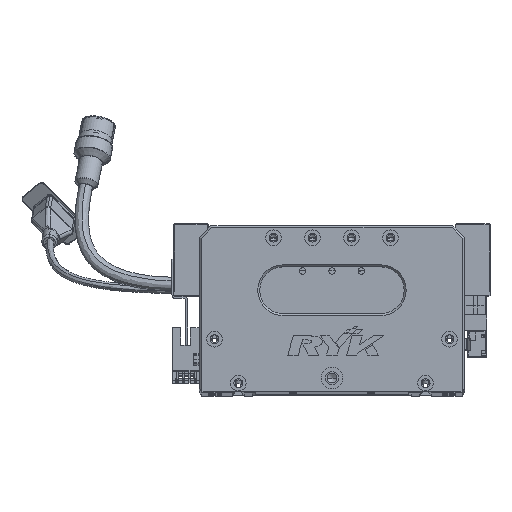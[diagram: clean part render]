
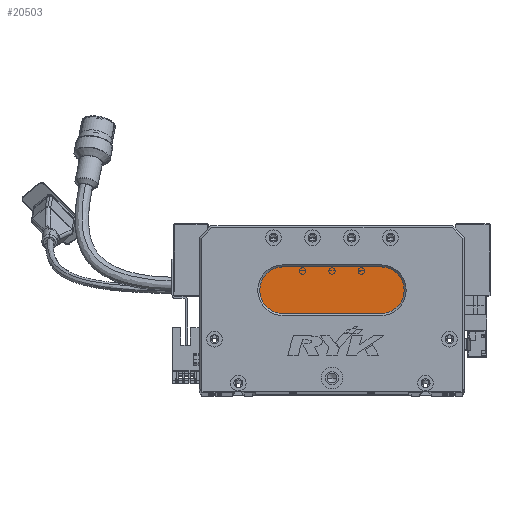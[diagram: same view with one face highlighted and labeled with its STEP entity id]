
A CAD part, top view. The second image highlights one B-rep face of the part: STEP entity #20503.
In plain terms, the highlighted planar face has unit normal (0, 0, 1) as drawn and (0, 0, -1) by its records, which use the part's own axes.
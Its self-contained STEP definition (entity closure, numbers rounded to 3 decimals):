
#447 = LINE ( 'NONE', #61571, #64118 ) ;
#2604 = VERTEX_POINT ( 'NONE', #35423 ) ;
#3941 = EDGE_CURVE ( 'NONE', #80259, #57751, #54508, .T. ) ;
#5310 = DIRECTION ( 'NONE',  ( -1., 0., 0. ) ) ;
#6133 = CARTESIAN_POINT ( 'NONE',  ( 43., 52., 13. ) ) ;
#10605 = CARTESIAN_POINT ( 'NONE',  ( 43., 52., 13. ) ) ;
#12146 = DIRECTION ( 'NONE',  ( 0., 0., -1. ) ) ;
#17013 = EDGE_CURVE ( 'NONE', #43106, #2604, #52364, .T. ) ;
#20289 = CARTESIAN_POINT ( 'NONE',  ( 93., 64., 13. ) ) ;
#20503 = ADVANCED_FACE ( 'NONE', ( #63161 ), #25349, .T. ) ;
#21717 = ORIENTED_EDGE ( 'NONE', *, *, #3941, .T. ) ;
#22318 = CIRCLE ( 'NONE', #67075, 12. ) ;
#23896 = ORIENTED_EDGE ( 'NONE', *, *, #17013, .T. ) ;
#25349 = PLANE ( 'NONE',  #56787 ) ;
#25865 = ORIENTED_EDGE ( 'NONE', *, *, #50575, .T. ) ;
#27200 = AXIS2_PLACEMENT_3D ( 'NONE', #6133, #58093, #5310 ) ;
#29032 = CARTESIAN_POINT ( 'NONE',  ( 31., 52., 13. ) ) ;
#30608 = VECTOR ( 'NONE', #62903, 1000. ) ;
#32275 = DIRECTION ( 'NONE',  ( -1., 0., 0. ) ) ;
#35423 = CARTESIAN_POINT ( 'NONE',  ( 93., 40., 13. ) ) ;
#37983 = CARTESIAN_POINT ( 'NONE',  ( 43., 64., 13. ) ) ;
#42195 = ORIENTED_EDGE ( 'NONE', *, *, #54521, .T. ) ;
#43106 = VERTEX_POINT ( 'NONE', #20289 ) ;
#44909 = EDGE_LOOP ( 'NONE', ( #23896, #48369, #25865, #21717, #42195 ) ) ;
#48369 = ORIENTED_EDGE ( 'NONE', *, *, #74571, .T. ) ;
#50575 = EDGE_CURVE ( 'NONE', #76354, #80259, #22318, .T. ) ;
#52364 = CIRCLE ( 'NONE', #81248, 12. ) ;
#54508 = CIRCLE ( 'NONE', #27200, 12. ) ;
#54521 = EDGE_CURVE ( 'NONE', #57751, #43106, #447, .T. ) ;
#55498 = DIRECTION ( 'NONE',  ( 1., 0., 0. ) ) ;
#56787 = AXIS2_PLACEMENT_3D ( 'NONE', #57795, #12146, #64686 ) ;
#57751 = VERTEX_POINT ( 'NONE', #37983 ) ;
#57795 = CARTESIAN_POINT ( 'NONE',  ( 93., 52., 13. ) ) ;
#58093 = DIRECTION ( 'NONE',  ( 0., 0., -1. ) ) ;
#59866 = CARTESIAN_POINT ( 'NONE',  ( 93., 52., 13. ) ) ;
#61571 = CARTESIAN_POINT ( 'NONE',  ( 93., 64., 13. ) ) ;
#62903 = DIRECTION ( 'NONE',  ( -1., 0., 0. ) ) ;
#63161 = FACE_OUTER_BOUND ( 'NONE', #44909, .T. ) ;
#63695 = DIRECTION ( 'NONE',  ( 0., 0., -1. ) ) ;
#63976 = DIRECTION ( 'NONE',  ( -1., 0., 0. ) ) ;
#64118 = VECTOR ( 'NONE', #55498, 1000. ) ;
#64686 = DIRECTION ( 'NONE',  ( -1., 0., 0. ) ) ;
#67075 = AXIS2_PLACEMENT_3D ( 'NONE', #10605, #63695, #63976 ) ;
#72773 = DIRECTION ( 'NONE',  ( 0., 0., -1. ) ) ;
#74571 = EDGE_CURVE ( 'NONE', #2604, #76354, #76846, .T. ) ;
#76354 = VERTEX_POINT ( 'NONE', #79794 ) ;
#76846 = LINE ( 'NONE', #81809, #30608 ) ;
#79794 = CARTESIAN_POINT ( 'NONE',  ( 43., 40., 13. ) ) ;
#80259 = VERTEX_POINT ( 'NONE', #29032 ) ;
#81248 = AXIS2_PLACEMENT_3D ( 'NONE', #59866, #72773, #32275 ) ;
#81809 = CARTESIAN_POINT ( 'NONE',  ( 93., 40., 13. ) ) ;
